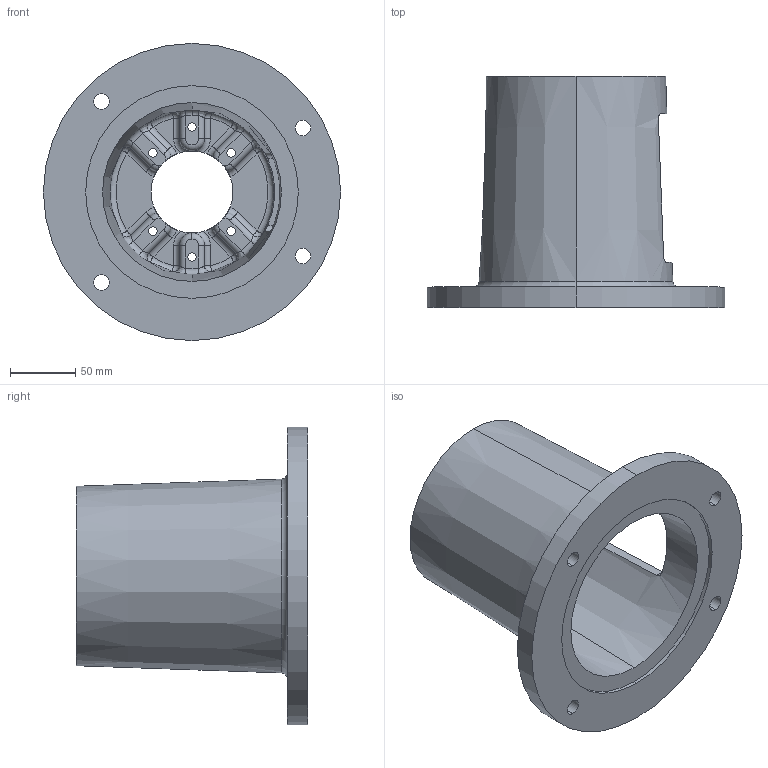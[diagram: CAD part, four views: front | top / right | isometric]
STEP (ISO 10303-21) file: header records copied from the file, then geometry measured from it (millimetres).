
FILE_DESCRIPTION (( 'STEP AP203' ), '1' );
FILE_NAME ('E6447063M.STEP', '2014-11-03T18:11:19', ( '' ), ( '' ), 'SwSTEP 2.0', 'SolidWorks 2014', '' );
FILE_SCHEMA (( 'CONFIG_CONTROL_DESIGN' ));
Length unit declared in the file: inch
Products named in the file (1): E6447063M
Bounding box: 228.6 x 177.8 x 228.6 mm (x, y, z)
Volume: 891341.3 mm3; surface area: 220393.3 mm2
Topology: 1 solids, 1 shells, 176 faces, 438 edges, 254 vertices
Faces by surface type: cylinder 65, torus 39, plane 32, bspline 24, sphere 12, cone 4
Entity records: 7126 total; most frequent: CARTESIAN_POINT 2969, DIRECTION 887, ORIENTED_EDGE 852, EDGE_CURVE 426, AXIS2_PLACEMENT_3D 390, VERTEX_POINT 254, CIRCLE 237, EDGE_LOOP 202
